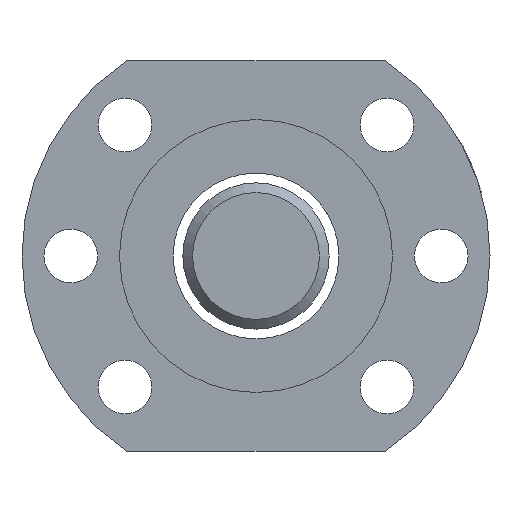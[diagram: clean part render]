
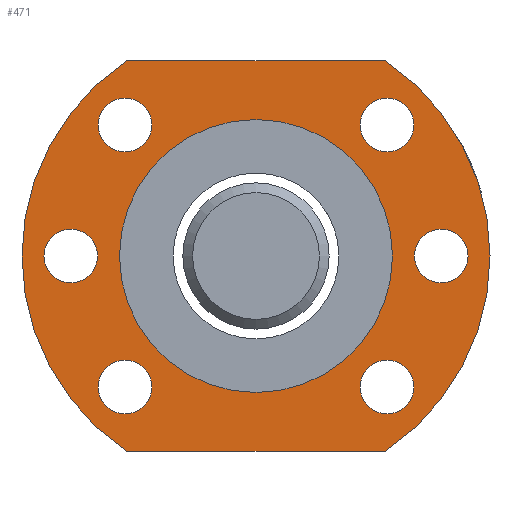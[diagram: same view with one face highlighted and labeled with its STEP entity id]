
A CAD part, left-side view. The second image highlights one B-rep face of the part: STEP entity #471.
In plain terms, the highlighted planar face has unit normal (-1, 0, 0).
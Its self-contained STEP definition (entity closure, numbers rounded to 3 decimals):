
#63=LINE('',#803,#71);
#65=LINE('',#807,#73);
#71=VECTOR('',#656,1000.);
#73=VECTOR('',#660,1000.);
#82=PLANE('',#552);
#157=ORIENTED_EDGE('',*,*,#228,.T.);
#158=ORIENTED_EDGE('',*,*,#230,.T.);
#159=ORIENTED_EDGE('',*,*,#231,.F.);
#160=ORIENTED_EDGE('',*,*,#232,.F.);
#161=ORIENTED_EDGE('',*,*,#233,.F.);
#162=ORIENTED_EDGE('',*,*,#238,.T.);
#163=ORIENTED_EDGE('',*,*,#236,.T.);
#164=ORIENTED_EDGE('',*,*,#210,.T.);
#165=ORIENTED_EDGE('',*,*,#234,.T.);
#166=ORIENTED_EDGE('',*,*,#239,.F.);
#167=ORIENTED_EDGE('',*,*,#229,.T.);
#210=EDGE_CURVE('',#258,#260,#299,.T.);
#228=EDGE_CURVE('',#277,#277,#311,.T.);
#229=EDGE_CURVE('',#278,#278,#312,.T.);
#230=EDGE_CURVE('',#279,#279,#313,.T.);
#231=EDGE_CURVE('',#280,#280,#314,.T.);
#232=EDGE_CURVE('',#281,#281,#315,.T.);
#233=EDGE_CURVE('',#282,#282,#316,.T.);
#234=EDGE_CURVE('',#260,#283,#63,.T.);
#236=EDGE_CURVE('',#284,#258,#65,.T.);
#238=EDGE_CURVE('',#283,#284,#317,.T.);
#239=EDGE_CURVE('',#285,#285,#318,.T.);
#258=VERTEX_POINT('',#725);
#260=VERTEX_POINT('',#729);
#277=VERTEX_POINT('',#786);
#278=VERTEX_POINT('',#789);
#279=VERTEX_POINT('',#792);
#280=VERTEX_POINT('',#795);
#281=VERTEX_POINT('',#798);
#282=VERTEX_POINT('',#801);
#283=VERTEX_POINT('',#804);
#284=VERTEX_POINT('',#808);
#285=VERTEX_POINT('',#814);
#299=CIRCLE('',#522,24.);
#311=CIRCLE('',#537,2.75);
#312=CIRCLE('',#539,2.75);
#313=CIRCLE('',#541,2.75);
#314=CIRCLE('',#543,2.75);
#315=CIRCLE('',#545,2.75);
#316=CIRCLE('',#547,2.75);
#317=CIRCLE('',#551,24.);
#318=CIRCLE('',#553,14.);
#360=EDGE_LOOP('',(#157));
#361=EDGE_LOOP('',(#158));
#362=EDGE_LOOP('',(#159));
#363=EDGE_LOOP('',(#160));
#364=EDGE_LOOP('',(#161));
#365=EDGE_LOOP('',(#162,#163,#164,#165));
#366=EDGE_LOOP('',(#166));
#367=EDGE_LOOP('',(#167));
#423=FACE_BOUND('',#360,.T.);
#424=FACE_BOUND('',#361,.T.);
#425=FACE_BOUND('',#362,.T.);
#426=FACE_BOUND('',#363,.T.);
#427=FACE_BOUND('',#364,.T.);
#428=FACE_BOUND('',#365,.T.);
#429=FACE_BOUND('',#366,.T.);
#430=FACE_BOUND('',#367,.T.);
#471=ADVANCED_FACE('',(#423,#424,#425,#426,#427,#428,#429,#430),#82,.T.);
#522=AXIS2_PLACEMENT_3D('',#730,#600,#601);
#537=AXIS2_PLACEMENT_3D('',#785,#632,#633);
#539=AXIS2_PLACEMENT_3D('',#788,#636,#637);
#541=AXIS2_PLACEMENT_3D('',#791,#640,#641);
#543=AXIS2_PLACEMENT_3D('',#794,#644,#645);
#545=AXIS2_PLACEMENT_3D('',#797,#648,#649);
#547=AXIS2_PLACEMENT_3D('',#800,#652,#653);
#551=AXIS2_PLACEMENT_3D('',#811,#664,#665);
#552=AXIS2_PLACEMENT_3D('',#812,#666,#667);
#553=AXIS2_PLACEMENT_3D('',#813,#668,#669);
#600=DIRECTION('',(-1.,0.,0.));
#601=DIRECTION('',(0.,0.,-1.));
#632=DIRECTION('',(1.,0.,0.));
#633=DIRECTION('',(0.,0.,1.));
#636=DIRECTION('',(1.,0.,0.));
#637=DIRECTION('',(0.,0.,1.));
#640=DIRECTION('',(1.,0.,0.));
#641=DIRECTION('',(0.,0.,1.));
#644=DIRECTION('',(-1.,0.,0.));
#645=DIRECTION('',(0.,0.,1.));
#648=DIRECTION('',(-1.,0.,0.));
#649=DIRECTION('',(0.,0.,1.));
#652=DIRECTION('',(-1.,0.,0.));
#653=DIRECTION('',(0.,0.,1.));
#656=DIRECTION('',(0.,1.,0.));
#660=DIRECTION('',(0.,-1.,0.));
#664=DIRECTION('',(-1.,0.,0.));
#665=DIRECTION('',(0.,0.,-1.));
#666=DIRECTION('',(-1.,0.,0.));
#667=DIRECTION('',(0.,0.,1.));
#668=DIRECTION('',(-1.,0.,0.));
#669=DIRECTION('',(0.,0.,-1.));
#725=CARTESIAN_POINT('',(-95.116,-80.124,-49.289));
#729=CARTESIAN_POINT('',(-95.116,-80.124,-9.289));
#730=CARTESIAN_POINT('',(-95.116,-66.858,-29.289));
#785=CARTESIAN_POINT('',(-95.116,-80.293,-15.854));
#786=CARTESIAN_POINT('',(-95.116,-80.293,-13.104));
#788=CARTESIAN_POINT('',(-95.116,-85.858,-29.289));
#789=CARTESIAN_POINT('',(-95.116,-85.858,-26.539));
#791=CARTESIAN_POINT('',(-95.116,-80.293,-42.724));
#792=CARTESIAN_POINT('',(-95.116,-80.293,-39.974));
#794=CARTESIAN_POINT('',(-95.116,-53.423,-42.724));
#795=CARTESIAN_POINT('',(-95.116,-53.423,-39.974));
#797=CARTESIAN_POINT('',(-95.116,-53.423,-15.854));
#798=CARTESIAN_POINT('',(-95.116,-53.423,-13.104));
#800=CARTESIAN_POINT('',(-95.116,-47.858,-29.289));
#801=CARTESIAN_POINT('',(-95.116,-47.858,-26.539));
#803=CARTESIAN_POINT('',(-95.116,-80.124,-9.289));
#804=CARTESIAN_POINT('',(-95.116,-53.591,-9.289));
#807=CARTESIAN_POINT('',(-95.116,-53.591,-49.289));
#808=CARTESIAN_POINT('',(-95.116,-53.591,-49.289));
#811=CARTESIAN_POINT('',(-95.116,-66.858,-29.289));
#812=CARTESIAN_POINT('',(-95.116,-66.858,-29.289));
#813=CARTESIAN_POINT('',(-95.116,-66.858,-29.289));
#814=CARTESIAN_POINT('',(-95.116,-66.858,-43.289));
